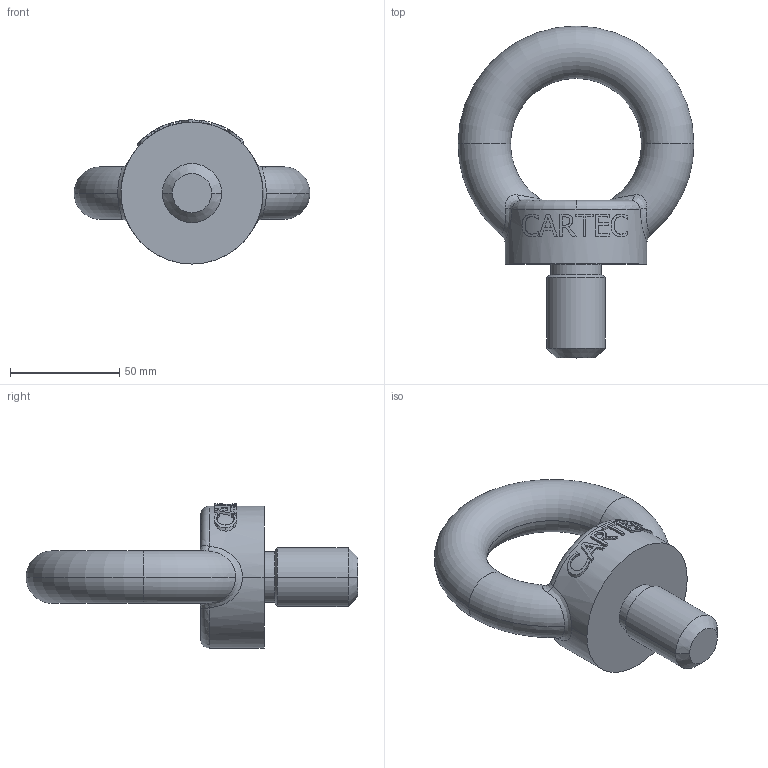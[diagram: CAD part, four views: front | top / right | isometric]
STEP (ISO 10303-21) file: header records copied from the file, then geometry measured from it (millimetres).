
FILE_DESCRIPTION(('STEP AP214'),'1');
FILE_NAME('c80327.stp','2017-03-22T15:18:08',('TraceParts'),('TraceParts S.A.'),'Spatial InterOp 3D',' ',' ');
FILE_SCHEMA(('automotive_design'));
Length unit declared in the file: millimetre
Products named in the file (1): c80327
Bounding box: 108 x 152 x 66 mm (x, y, z)
Volume: 209721.8 mm3; surface area: 30370.8 mm2
Topology: 1 solids, 1 shells, 128 faces, 339 edges, 220 vertices
Faces by surface type: plane 53, bspline 47, cylinder 14, torus 10, cone 4
Entity records: 6012 total; most frequent: CARTESIAN_POINT 2024, ORIENTED_EDGE 678, DIRECTION 509, EDGE_CURVE 339, VERTEX_POINT 220, AXIS2_PLACEMENT_3D 188, EDGE_LOOP 137, LINE 133
